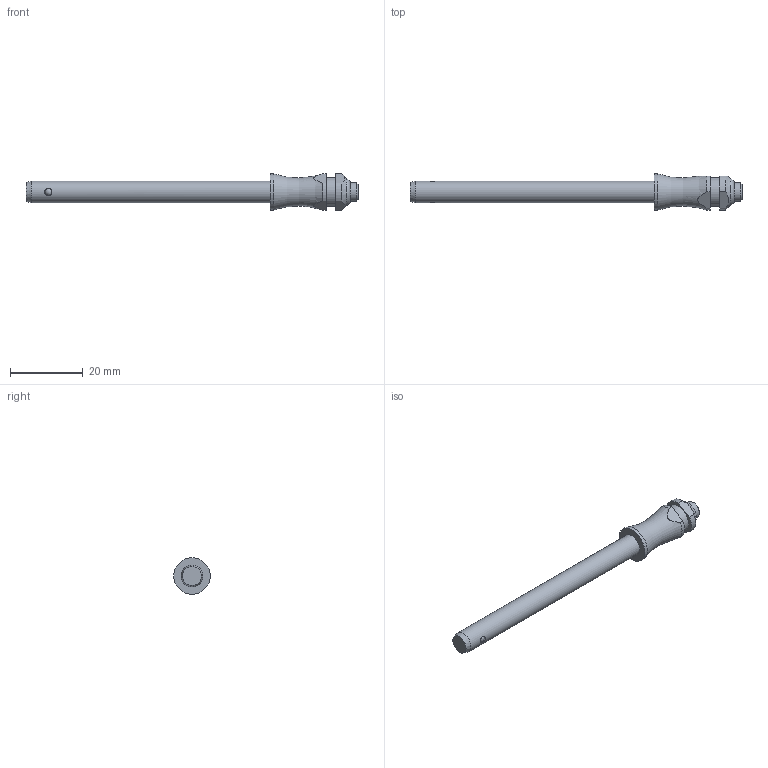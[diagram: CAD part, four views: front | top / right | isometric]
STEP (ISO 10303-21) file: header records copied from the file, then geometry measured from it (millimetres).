
FILE_DESCRIPTION( ( 'STEP AP203' ), '1' );
FILE_NAME( 'C:/Temp/Ganter_Step_05_03_2020/data/3_1/gn113_3/Stainless Steel-Ball lock pin GN 113.3-6-60 (activated).stp', '2020-03-12T08:18:20', ( 'License CC BY-ND 4.0' ), ( 'CADENAS' ), ' ', 'PARTsolutions', ' ' );
FILE_SCHEMA( ( 'CONFIG_CONTROL_DESIGN' ) );
Length unit declared in the file: millimetre
Products named in the file (1): _Stainless Steel-Ball lock pin GN 113.3-6-60 (activated)
Bounding box: 91.15 x 10 x 10 mm (x, y, z)
Volume: 3185.6 mm3; surface area: 2064.7 mm2
Topology: 1 solids, 1 shells, 31 faces, 73 edges, 46 vertices
Faces by surface type: plane 12, cylinder 12, cone 3, torus 2, sphere 2
Full cylindrical faces by diameter (mm): 2 x2, 5 x1, 6 x1, 7.9 x1, 10 x1
Entity records: 962 total; most frequent: CARTESIAN_POINT 298, DIRECTION 134, ORIENTED_EDGE 104, AXIS2_PLACEMENT_3D 58, EDGE_CURVE 52, EDGE_LOOP 48, VERTEX_POINT 40, FACE_OUTER_BOUND 39
